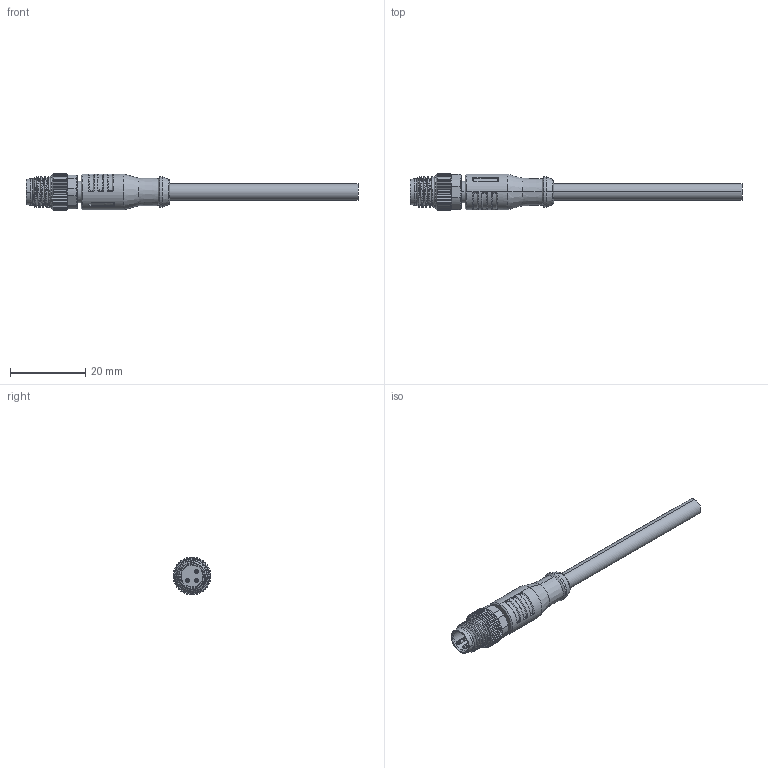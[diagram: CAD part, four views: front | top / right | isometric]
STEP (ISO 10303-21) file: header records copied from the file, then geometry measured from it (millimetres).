
FILE_DESCRIPTION (( 'STEP AP203' ), '1' );
FILE_NAME ('63T521-XXX.STEP', '2024-10-24T05:27:47', ( 'L' ), ( '' ), 'SwSTEP 2.0', 'SolidWorks 2019', '' );
FILE_SCHEMA (( 'CONFIG_CONTROL_DESIGN' ));
Length unit declared in the file: millimetre
Products named in the file (1): 63T521-XXX
Bounding box: 88.1 x 9.99 x 9.99 mm (x, y, z)
Volume: 2757.8 mm3; surface area: 2757.5 mm2
Topology: 1 solids, 1 shells, 679 faces, 1895 edges, 1218 vertices
Faces by surface type: plane 273, cylinder 159, bspline 119, cone 109, torus 19
Entity records: 27883 total; most frequent: CARTESIAN_POINT 12590, ORIENTED_EDGE 3774, DIRECTION 2351, EDGE_CURVE 1887, VERTEX_POINT 1218, B_SPLINE_CURVE_WITH_KNOTS 954, AXIS2_PLACEMENT_3D 885, EDGE_LOOP 699
